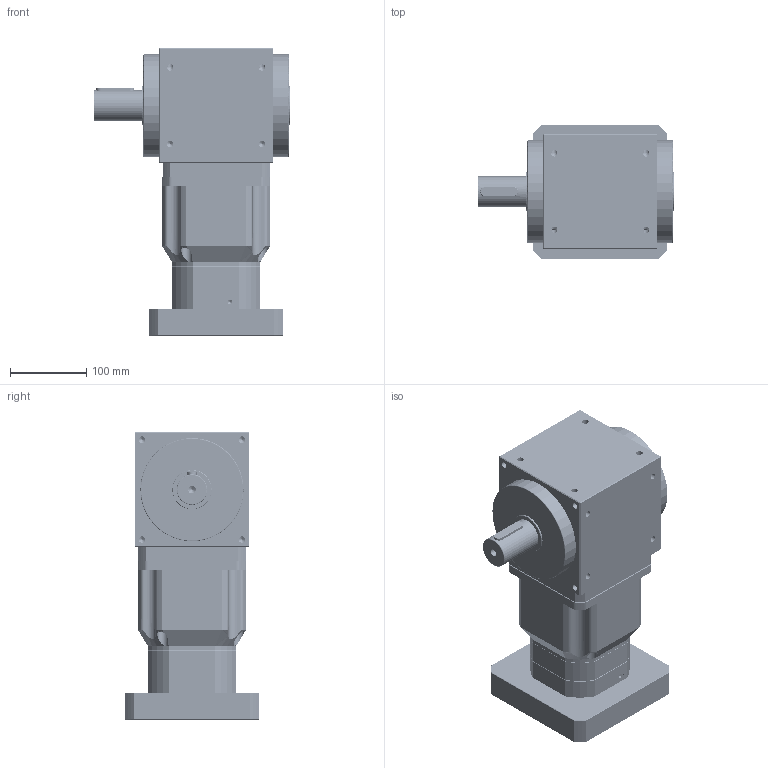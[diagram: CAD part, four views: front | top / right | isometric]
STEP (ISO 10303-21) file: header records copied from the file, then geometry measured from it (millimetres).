
FILE_DESCRIPTION (( 'STEP AP214' ), '1' );
FILE_NAME ('PAW150A-L2-P(12-100) 35-114.3-200-M12.STEP', '2021-04-24T08:27:03', ( 'Microsoft' ), ( 'Microsoft China' ), 'SwSTEP 2.0', 'SolidWorks 2016', '' );
FILE_SCHEMA (( 'AUTOMOTIVE_DESIGN' ));
Length unit declared in the file: millimetre
Products named in the file (38): 二级齿圈Z84; Spring lock washers--Normal type GB_GB_FASTENER_WASHER_SW 6; Circlips for hole--Type B GB_GB_CONNECTING_PIECE_RINGS_CHB 80; Spring lock washers--Normal type GB_GB_FASTENER_WASHER_SW 8; Plain parallel keys_GB_CONNECTING_PIECE_KEYS_CSK C6X18; Hexagon socket head cap screws GB_GB_FASTENER_SCREWS_HSHCS M8X30-N; 俴陎謫5; Hexagon socket head cap screws GB_GB_FASTENER_SCREWS_HSHCS M8X25-N; 俴陎謫菜え13.6X27; Hex socket set screws with flat point GB_GB_FASTENER_SCREWS_HSFP M12X16-N; 幗渀粣創13.513X18.513; Plain parallel keys_GB_CONNECTING_PIECE_KEYS_CSK C4X16; 俴陎粣13.513; Circlips for shaft--Type A large GB_GB_CONNECTING_PIECE_RING_RRA 50; 怮栠謫5; Hexagon socket countersunk head screws GB_GB_FASTENER_SCREWS_HSCHS M5X12-N; Circlips for hole--Type B GB_GB_CONNECTING_PIECE_RINGS_CHB 110; 粣創揤啣80; 蚐猾60X110X12; 115怮栠謫5A; Deep groove ball bearings GB_Rolling bearings 61821 GB 276-94; Deep groove ball bearings GB_Rolling bearings 6010 GB 276-94; Deep groove ball bearings GB_Rolling bearings 6212 GB 276-94; 媼撰笢潔楊擘; 怀堤粣5; Circlips for holes--Type A GB_GB_CONNECTING_PIECE_RING_RRH 62; 一级齿圈Z108; 115幗渀粣創10.347X15.347X20; 115俴陎謫5A; PAW150A-L2-P(12-100) 35-114.3-200-M12; 115俴陎謫菜え10.5; PAW150A-L1-2P--35-114.3-200-M12; 115俴陎粣10.347X33.5; 115K114.3萇儂楊擘; Deep groove ball bearings GB_Rolling bearings 61816 GB 276-94; 115薊粣ん35K18; 俴陎殤5A-5; Hexagon socket head cap screws GB_GB_FASTENER_SCREWS_HSHCS M6X25-N
Assembly tree (85 placements, depth 2):
  PAW150A-L2-P(12-100) 35-114.3-200-M12
    一级齿圈Z108
    怀堤粣5
    Deep groove ball bearings GB_Rolling bearings 6212 GB 276-94
    Deep groove ball bearings GB_Rolling bearings 61821 GB 276-94
    蚐猾60X110X12
    Circlips for hole--Type B GB_GB_CONNECTING_PIECE_RINGS_CHB 110
    怮栠謫5
    俴陎粣13.513  x3
    幗渀粣創13.513X18.513  x3
    俴陎謫菜え13.6X27  x6
    俴陎謫5  x3
    Plain parallel keys_GB_CONNECTING_PIECE_KEYS_CSK C6X18
    Circlips for hole--Type B GB_GB_CONNECTING_PIECE_RINGS_CHB 80
    二级齿圈Z84
    俴陎殤5A-5
    Deep groove ball bearings GB_Rolling bearings 61816 GB 276-94
    115俴陎粣10.347X33.5  x3
    115俴陎謫菜え10.5  x6
    115俴陎謫5A  x3
    115幗渀粣創10.347X15.347X20  x3
    Circlips for holes--Type A GB_GB_CONNECTING_PIECE_RING_RRH 62
    媼撰笢潔楊擘
    Deep groove ball bearings GB_Rolling bearings 6010 GB 276-94
    115怮栠謫5A
    粣創揤啣80
    Hexagon socket countersunk head screws GB_GB_FASTENER_SCREWS_HSCHS M5X12-N  x6
    Circlips for shaft--Type A large GB_GB_CONNECTING_PIECE_RING_RRA 50
    Plain parallel keys_GB_CONNECTING_PIECE_KEYS_CSK C4X16
    Hex socket set screws with flat point GB_GB_FASTENER_SCREWS_HSFP M12X16-N  x2
    Hexagon socket head cap screws GB_GB_FASTENER_SCREWS_HSHCS M8X25-N  x5
    Hexagon socket head cap screws GB_GB_FASTENER_SCREWS_HSHCS M8X30-N  x4
    Spring lock washers--Normal type GB_GB_FASTENER_WASHER_SW 8  x8
    Spring lock washers--Normal type GB_GB_FASTENER_WASHER_SW 6  x4
    Hexagon socket head cap screws GB_GB_FASTENER_SCREWS_HSHCS M6X25-N  x4
    115薊粣ん35K18
    115K114.3萇儂楊擘
    PAW150A-L1-2P--35-114.3-200-M12
Bounding box: 257 x 176 x 376 mm (x, y, z)
Volume: 7585006.7 mm3; surface area: 894467.1 mm2
Topology: 85 solids, 85 shells, 3028 faces, 9534 edges, 5909 vertices
Faces by surface type: cylinder 917, bspline 788, plane 747, cone 424, sphere 152
Entity records: 135162 total; most frequent: CARTESIAN_POINT 48483, ORIENTED_EDGE 14478, DIRECTION 10434, EDGE_CURVE 7239, VERTEX_POINT 4772, AXIS2_PLACEMENT_3D 4446, CIRCLE 2746, EDGE_LOOP 2629
